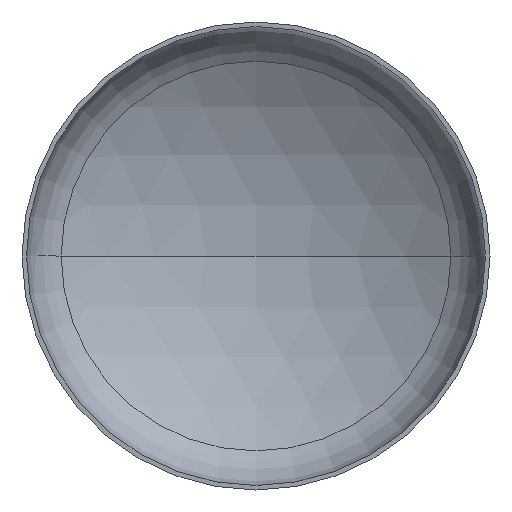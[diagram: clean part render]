
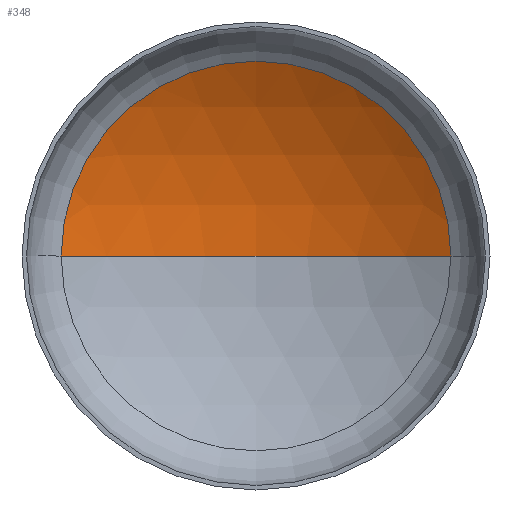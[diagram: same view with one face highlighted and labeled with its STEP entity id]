
A CAD part, front view. The second image highlights one B-rep face of the part: STEP entity #348.
In plain terms, the highlighted spherical face has radius 5600 mm.
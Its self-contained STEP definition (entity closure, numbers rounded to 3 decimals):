
#2 = ORIENTED_EDGE ( 'NONE', *, *, #223, .F. ) ;
#25 = VERTEX_POINT ( 'NONE', #289 ) ;
#40 = CIRCLE ( 'NONE', #140, 2913.982 ) ;
#63 = VERTEX_POINT ( 'NONE', #224 ) ;
#67 = AXIS2_PLACEMENT_3D ( 'NONE', #218, #131, #154 ) ;
#80 = ORIENTED_EDGE ( 'NONE', *, *, #215, .T. ) ;
#88 = ORIENTED_EDGE ( 'NONE', *, *, #220, .T. ) ;
#115 = DIRECTION ( 'NONE',  ( 0., 0., 1. ) ) ;
#131 = DIRECTION ( 'NONE',  ( 0., 0., -1. ) ) ;
#135 = AXIS2_PLACEMENT_3D ( 'NONE', #398, #115, #400 ) ;
#139 = AXIS2_PLACEMENT_3D ( 'NONE', #177, #274, #300 ) ;
#140 = AXIS2_PLACEMENT_3D ( 'NONE', #170, #174, #345 ) ;
#154 = DIRECTION ( 'NONE',  ( -1., 0., 0. ) ) ;
#170 = CARTESIAN_POINT ( 'NONE',  ( 0., 1042.267, 0. ) ) ;
#174 = DIRECTION ( 'NONE',  ( 0., -1., 0. ) ) ;
#177 = CARTESIAN_POINT ( 'NONE',  ( 0., -3739.857, 0. ) ) ;
#199 = EDGE_LOOP ( 'NONE', ( #2, #88, #80 ) ) ;
#215 = EDGE_CURVE ( 'NONE', #391, #25, #40, .T. ) ;
#218 = CARTESIAN_POINT ( 'NONE',  ( 0., -3739.857, 0. ) ) ;
#220 = EDGE_CURVE ( 'NONE', #63, #391, #366, .T. ) ;
#223 = EDGE_CURVE ( 'NONE', #63, #25, #256, .T. ) ;
#224 = CARTESIAN_POINT ( 'NONE',  ( 0., 1860.143, 0. ) ) ;
#256 = CIRCLE ( 'NONE', #135, 5600. ) ;
#274 = DIRECTION ( 'NONE',  ( 0., 0., -1. ) ) ;
#289 = CARTESIAN_POINT ( 'NONE',  ( -2913.982, 1042.267, 0. ) ) ;
#299 = CARTESIAN_POINT ( 'NONE',  ( 2913.982, 1042.267, 0. ) ) ;
#300 = DIRECTION ( 'NONE',  ( -1., 0., 0. ) ) ;
#345 = DIRECTION ( 'NONE',  ( 1., 0., 0. ) ) ;
#348 = ADVANCED_FACE ( 'NONE', ( #397 ), #401, .F. ) ;
#366 = CIRCLE ( 'NONE', #139, 5600. ) ;
#391 = VERTEX_POINT ( 'NONE', #299 ) ;
#397 = FACE_OUTER_BOUND ( 'NONE', #199, .T. ) ;
#398 = CARTESIAN_POINT ( 'NONE',  ( 0., -3739.857, 0. ) ) ;
#400 = DIRECTION ( 'NONE',  ( 1., 0., 0. ) ) ;
#401 = SPHERICAL_SURFACE ( 'NONE', #67, 5600. ) ;
